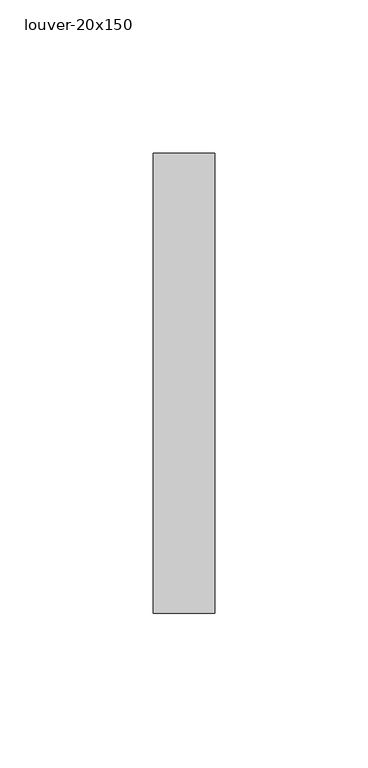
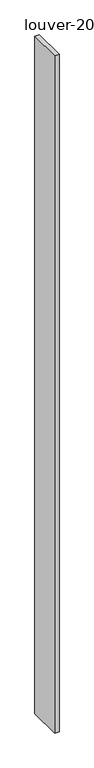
"""IFC4 building model written with IfcOpenShell, lengths in millimetres: member geometry, 長方形マリオン : louver-20x150."""

from ifc_helpers import new_model, si_unit, frame, origin, place, context, project, spatial, polyline, outline, extrude, source, transform, mapped, element, save


def louver_20x150_9e612a91(model_context):
    return source(origin(), model_context, "Body", "SweptSolid", [
        extrude(outline(polyline([(10.0, 75.0), (10.0, -75.0), (-10.0, -75.0), (-10.0, 75.0), (10.0, 75.0)])), frame((0.0, 0.0, -3163.9710933), z_axis=(0.0, 0.0, 1.0), x_axis=(1.0, 0.0, 0.0)), (0.0, 0.0, 1.0), 3163.9710933),
    ])


if __name__ == "__main__":
    model = new_model("IFC4")
    model_context = context("Model", 3, world=origin())
    ifc_project = project(units=[si_unit("LENGTHUNIT", "METRE", prefix="MILLI")], contexts=[model_context])
    site = spatial("IfcSite", under=ifc_project)
    building = spatial("IfcBuilding", under=site)
    placement = place(None, origin())
    louver_20x150_shape = louver_20x150_9e612a91(model_context)
    element("IfcMember", 1, ObjectType="長方形マリオン : louver-20x150", at=placement, inside=building, context=model_context, shape_type="MappedRepresentation", body=[
        mapped(louver_20x150_shape, transform((0.0, 0.0, 0.0), x_axis=(1.0, 0.0, 0.0), y_axis=(0.0, 1.0, 0.0), z_axis=(0.0, 0.0, 1.0))),
    ])
    save(model, "model.ifc")
